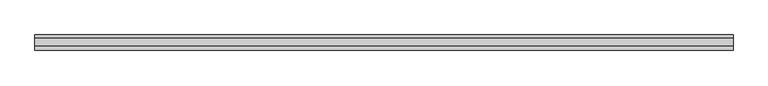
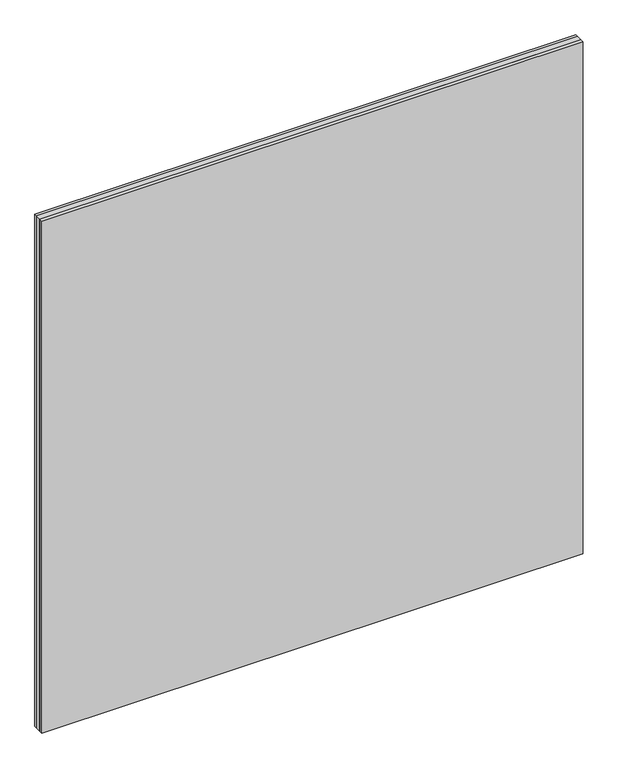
"""IFC4 building model written with IfcOpenShell, lengths in millimetres: plate geometry, 2014_Panel-Cristal-MC_SGG_COOL-LITE-KNT 140 : CLIMALIT PLUS con COOL LITE KNT 140 F2 6 (16 argon90%) 44.2."""

from ifc_helpers import new_model, si_unit, frame, origin, place, context, project, spatial, polyline, outline, extrude, source, transform, mapped, element, save


def plate_dd025fa3(model_context):
    return source(origin(), model_context, "Body", "SweptSolid", [
        extrude(outline(polyline([(690.0, 32.4), (690.0, 26.4), (-690.0, 26.4), (-690.0, 32.4), (690.0, 32.4)])), frame((0.0, 0.0, -20.0), z_axis=(0.0, 0.0, 1.0), x_axis=(1.0, 0.0, 0.0)), (0.0, 0.0, 1.0), 1380.0),
        extrude(outline(polyline([(-690.0, 10.4), (690.0, 10.4), (690.0, 1.6), (-690.0, 1.6), (-690.0, 10.4)])), frame((0.0, 0.0, -20.0), z_axis=(0.0, 0.0, 1.0), x_axis=(1.0, 0.0, 0.0)), (0.0, 0.0, 1.0), 1380.0),
        extrude(outline(polyline([(1360.0, -690.0), (-20.0, -690.0), (-20.0, 690.0), (1360.0, 690.0), (1360.0, -690.0)]), holes=[polyline([(1345.0, 675.0), (-5.0, 675.0), (-5.0, -675.0), (1345.0, -675.0), (1345.0, 675.0)])]), frame((0.0, 10.4, 0.0), z_axis=(0.0, 1.0, 0.0), x_axis=(0.0, 0.0, 1.0)), (0.0, 0.0, 1.0), 16.0),
    ])


if __name__ == "__main__":
    model = new_model("IFC4")
    model_context = context("Model", 3, world=origin())
    ifc_project = project(units=[si_unit("LENGTHUNIT", "METRE", prefix="MILLI")], contexts=[model_context])
    site = spatial("IfcSite", under=ifc_project)
    building = spatial("IfcBuilding", under=site)
    placement = place(None, origin())
    plate_shape = plate_dd025fa3(model_context)
    element("IfcPlate", 1, ObjectType="2014_Panel-Cristal-MC_SGG_COOL-LITE-KNT 140 : CLIMALIT PLUS con COOL LITE KNT 140 F2 6 (16 argon90%) 44.2", at=placement, inside=building, context=model_context, shape_type="MappedRepresentation", body=[
        mapped(plate_shape, transform((0.0, 0.0, 0.0), x_axis=(1.0, 0.0, 0.0), y_axis=(0.0, 1.0, 0.0), z_axis=(0.0, 0.0, 1.0))),
    ])
    save(model, "model.ifc")
